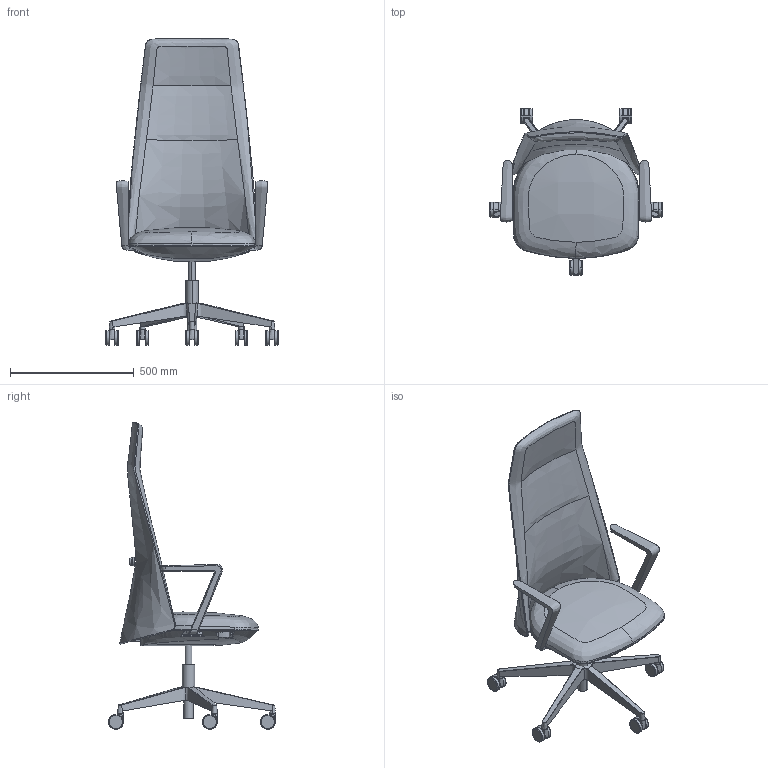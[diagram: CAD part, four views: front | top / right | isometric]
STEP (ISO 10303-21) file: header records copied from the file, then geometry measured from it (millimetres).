
FILE_DESCRIPTION(/* description */ (''),/* implementation_level */ '2;1');
FILE_NAME(/* name */ 'MELODY~1',/* time_stamp */ '2016-11-30T15:34:52+01:00',/* author */ (''),/* organization */ (''),/* preprocessor_version */ 'ST-DEVELOPER v15',/* originating_system */ '',/* authorisation */ '');
FILE_SCHEMA (('CONFIG_CONTROL_DESIGN'));
Length unit declared in the file: millimetre
Products named in the file (1): Document
Bounding box: 694.82 x 673.73 x 1238.33 mm (x, y, z)
Volume: 34760137.8 mm3; surface area: 2293065.3 mm2
Topology: 8 solids, 31 shells, 313 faces, 774 edges, 472 vertices
Faces by surface type: bspline 219, plane 94
Entity records: 22131 total; most frequent: CARTESIAN_POINT 17640, ORIENTED_EDGE 1387, EDGE_CURVE 756, VERTEX_POINT 466, B_SPLINE_CURVE_WITH_KNOTS 411, EDGE_LOOP 315, ADVANCED_FACE 313, FACE_OUTER_BOUND 313
